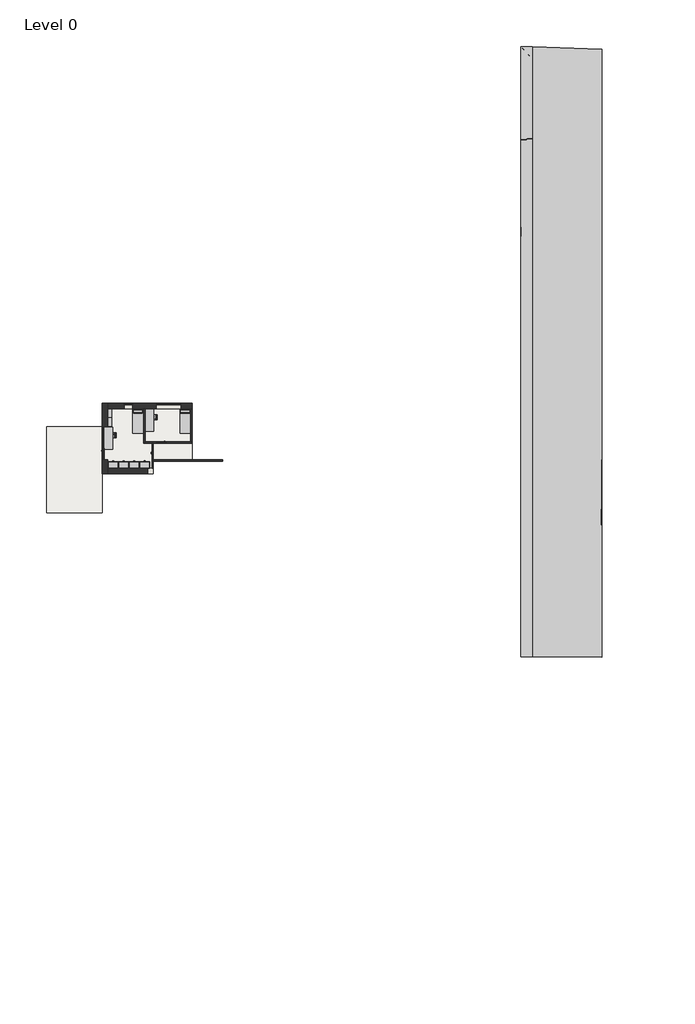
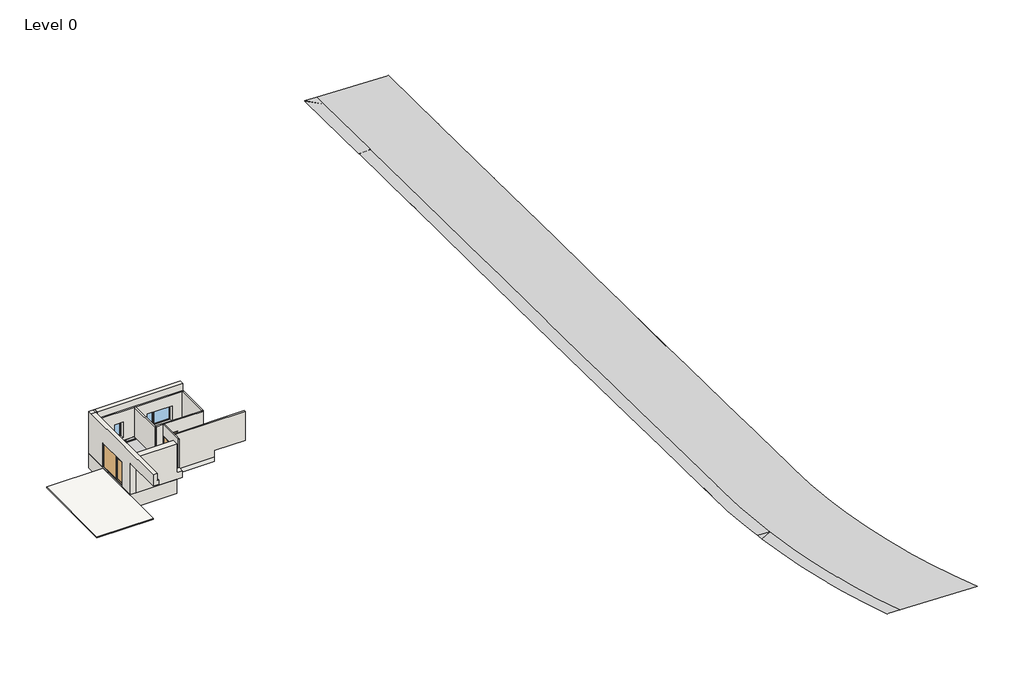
# One storey, incomplete: 12 furniture elements, 11 walls, 3 doors, 2 proxies, 2 slabs, 2 windows.
"""IFC4 building model written with IfcOpenShell, lengths in millimetres."""

from ifc_helpers import new_model, si_unit, frame, origin, place, context, project, spatial, polyline, outline, extrude, faceted_brep, triangles, transform, mapped, element, save
from components import ext_door_window_assembly_glass_2880x2200_mm_8e24472b, int_single_flush1_900x2200_mm_083ae047, int_single_flush1_900x2200_mm_924e3177, furniture_56f83323, furniture_1900_x_700mm_ac9d8d07, furniture_750_x_300_x_700mm_660817c4, bed_standard_2100_x_900mm_af0b1266, tall_cabinet_double_door_900_mm_12ca9f50, single_light_720x1400_mm_50d61ae6, window_assembly_individual_2160x1400_mm_9c06a6f2

model = new_model("IFC4")

# Units and contexts
model_context = context("Model", 3, world=origin())
ifc_project = project(units=[si_unit("LENGTHUNIT", "METRE", prefix="MILLI")], contexts=[model_context])

# Site, building, storey
site = spatial("IfcSite", under=ifc_project)
building = spatial("IfcBuilding", under=site)
storey = spatial("IfcBuildingStorey", under=building, Name="Level 0", Elevation=-600.0)

# Proxies
placement = place(None, origin())
element("IfcBuildingElementProxy", 1, Name="Building Element Proxy", at=placement, inside=storey, context=model_context, shape_type="Tessellation", body=[
    triangles([(43181.6805176, 40515.4990723, -100.0000008), (37203.5361145, 40724.2584229, -100.0000008), (37199.9991211, 40724.3839966, -100.0000008), (37199.9991211, 39671.6947632, -86.6964796), (37199.9991211, 32813.720343, 0.0), (37199.9991211, 32782.3641174, 0.3775577), (37199.9991211, 25025.3120178, 100.0000008), (37199.9991211, 15908.9126587, 198.5837907), (37199.9991211, 15779.7519379, 200.0000015), (37199.9991211, 15651.9027649, 201.4311097), (37199.9991211, 6719.0625504, 300.0000023), (37199.9991211, 6686.3662903, 300.4406549), (37199.9991211, -516.6359433, 400.0000031), (37199.9991211, -544.085794, 400.4496486), (37199.9991211, -6997.0037247, 500.0000038), (37199.9991211, -6998.7687332, 500.0334683), (37199.9991211, -11963.7174225, 600.0000046), (37199.9991211, -18366.1940643, 696.1991472), (37199.9991211, -18619.0902557, 700.0000053), (37199.9991211, -18662.7050354, 700.6330336), (37199.9991211, -19440.043634, 712.0087927), (37243.5825073, -21707.3866333, 745.2285673), (37374.2652283, -23971.3809998, 778.4773373), (37479.7959961, -25066.1630127, 794.5930687), (37513.2939514, -25413.6743591, 799.6886152), (37515.3008057, -25434.4893677, 800.0000061), (37542.2945068, -25714.5094849, 803.4851131), (37591.8565979, -26228.680426, 809.8311647), (37896.0333801, -28475.9502319, 837.7060621), (38286.3490906, -30709.8696899, 865.554217), (38695.5078369, -32616.2951843, 889.4398956), (38762.2223694, -32927.1413269, 893.3128424), (38880.3128357, -33389.9061035, 899.0808043), (38898.2815063, -33460.3157593, 900.0000069), (39159.5167236, -34484.0276917, 913.6351484), (39322.9532593, -35124.4862732, 922.2167467), (39967.7139038, -37298.6582153, 951.3063229), (40695.5531982, -39446.4480469, 979.9999929), (40728.360498, -39447.5921631, 979.9999929), (47214.4576172, -39674.0946167, 979.9999929), (46380.4620117, -37523.5607666, 953.9988184), (45640.8234375, -35338.7778442, 927.5374249), (44996.94646, -33123.880481, 900.6660273), (44988.3376831, -33088.5965881, 900.2372017), (44983.9844604, -33070.7720947, 900.0000069), (44450.0496094, -30883.066095, 871.4600338), (44001.1700317, -28620.5786133, 842.0294174), (43651.1588379, -26340.7038208, 812.4567312), (43569.1266357, -25589.7984924, 802.743952), (43545.8861938, -25377.0649658, 800.0000061), (43537.044873, -25296.1210693, 798.7576401), (43514.4369507, -25089.177887, 795.6694565), (43400.6718018, -24047.7577332, 780.0871954), (43250.1926147, -21746.0842712, 745.6623344), (43200.0003296, -19440.043634, 711.1860958), (43200.0003296, -18717.1447357, 700.380578), (43200.0003296, -18691.7369843, 700.0000053), (43200.0003296, -18682.6538177, 699.8644758), (43200.0003296, -11988.0205902, 600.0000046), (43200.0003296, -11640.558078, 593.4250062), (43200.0003296, -8782.1186005, 539.3352845), (43200.0003296, -6707.3708221, 500.0000038), (43200.0003296, -6656.3843994, 499.2134239), (43200.0003296, -3825.6746246, 452.8434345), (43200.0003296, -699.7119415, 402.3703526), (43200.0003296, -600.9115405, 400.0000031), (43200.0003296, -560.0916484, 401.3769902), (43200.0003296, 5044.39384, 323.9550445), (43200.0003296, 6821.8510437, 300.0000023), (43200.0003296, 6846.8942825, 299.7236565), (43200.0003296, 15755.8208405, 200.0000015), (43200.0003296, 24756.1121704, 101.3148006), (43200.0003296, 24877.6954468, 100.0000008), (43200.0003296, 24981.1495972, 98.6713482), (43200.0003296, 32874.7026672, 3.6300556), (43200.0003296, 33152.5089661, 0.2819413), (43200.0003296, 33176.3330933, 0.0), (43200.0003296, 40385.2140015, -98.1988571), (43200.0003296, 40514.857251, -100.0000008), (37204.4453613, -18619.1739716, 700.0000053), (43198.7445923, -18691.6928009, 700.0000053), (43126.3025024, -11985.4474915, 600.0000046), (43146.4501099, -599.0415602, 400.0000031), (43196.9447021, 33176.0098572, 0.0), (43528.7291016, -25378.7648621, 800.0000061)], [[22, 23, 54], [52, 24, 25], [23, 24, 53], [52, 25, 26], [80, 20, 56], [56, 20, 21], [21, 22, 55], [81, 18, 80], [20, 80, 19], [27, 52, 26], [35, 45, 34], [37, 38, 39], [36, 43, 35], [46, 33, 34], [29, 48, 28], [29, 30, 47], [46, 30, 31], [32, 46, 31], [46, 32, 33], [85, 27, 28], [36, 37, 42], [19, 80, 18], [9, 71, 8], [74, 6, 7], [1, 4, 78], [6, 75, 5], [4, 5, 84], [3, 4, 2], [9, 10, 71], [61, 16, 17], [64, 14, 15], [16, 62, 15], [17, 82, 60], [14, 65, 83], [17, 18, 82], [11, 12, 69], [2, 4, 1], [13, 14, 83], [68, 12, 13], [7, 8, 72], [70, 10, 11], [83, 68, 13], [18, 58, 82], [37, 39, 42], [53, 54, 23], [52, 85, 51], [52, 53, 24], [51, 85, 50], [27, 85, 52], [58, 59, 82], [58, 81, 57], [81, 56, 57], [81, 80, 56], [21, 55, 56], [54, 55, 22], [43, 44, 35], [41, 42, 39], [40, 41, 39], [43, 36, 42], [49, 50, 85], [49, 85, 28], [46, 47, 30], [45, 46, 34], [48, 29, 47], [44, 45, 35], [28, 48, 49], [14, 64, 65], [63, 64, 15], [15, 62, 63], [65, 66, 83], [68, 83, 67], [66, 67, 83], [68, 69, 12], [71, 10, 70], [11, 69, 70], [71, 72, 8], [61, 62, 16], [17, 60, 61], [74, 7, 73], [75, 6, 74], [76, 84, 75], [77, 84, 76], [78, 79, 1], [77, 78, 84], [5, 75, 84], [7, 72, 73], [59, 60, 82], [78, 4, 84], [58, 18, 81]], closed=False),
])
element("IfcBuildingElementProxy", 2, Name="Building Element Proxy", at=placement, inside=storey, context=model_context, shape_type="Tessellation", body=[
    triangles([(36214.3104492, 40758.8051514, -100.0000008), (36199.9996948, 40759.3027954, -100.7970179), (36199.9996948, 40755.7123169, -100.6891393), (36199.9996948, 32724.904834, -0.9608008), (36199.9996948, 32703.2852234, 0.0), (36199.9996948, 25166.5359558, 99.6477875), (36199.9996948, 25152.6530823, 99.8128483), (36199.9996948, 25146.8185547, 99.8778698), (36199.9996948, 25144.3814941, 99.9011514), (36199.9996948, 25142.1909302, 99.9101262), (36199.9996948, 25139.7096863, 99.9103623), (36199.9996948, 24352.2461243, 108.5469173), (36199.9996948, 16593.2615845, 192.1385083), (36199.9996948, 15865.8920288, 200.0000015), (36199.9996948, 6699.2172501, 300.0000023), (36199.9996948, -556.9180049, 400.0000031), (36199.9996948, -7036.0792465, 500.0000038), (36199.9996948, -11959.4700073, 600.0000046), (36199.9996948, -17865.8920441, 688.9390526), (36199.9996948, -18590.1536499, 699.6456665), (36199.9996948, -18596.641626, 699.7049652), (36199.9996948, -18601.1797211, 699.7258215), (36199.9996948, -18606.7293823, 699.7334518), (36199.9996948, -19440.043634, 710.6949921), (36242.6296509, -21701.4195557, 741.8023956), (36370.4613831, -23959.5793945, 775.587252), (36491.581897, -25240.9337402, 796.3089523), (36509.2459351, -25427.7897766, 799.0163452), (36515.5618286, -25494.6182556, 800.0000061), (36531.7631653, -25666.0217468, 802.1085983), (36583.3088562, -26211.3186951, 807.286698), (36880.8720886, -28453.4330017, 831.7234331), (37262.7301758, -30682.7434387, 859.1798967), (37728.3389648, -32896.0757813, 889.617065), (37891.2336731, -33547.4871826, 899.5252539), (37897.1263367, -33571.053186, 899.8178959), (37900.7447205, -33585.5243958, 900.0000069), (37917.315802, -33651.7901184, 900.9052568), (38277.0333801, -35090.2860352, 918.016785), (38908.0390503, -37262.2581116, 947.4351929), (39592.0252075, -39323.2369629, 978.824556), (39615.242395, -39393.1954834, 979.7900494), (39620.4560303, -39408.9061523, 979.9999929), (40695.5531982, -39446.4480469, 979.9999929), (39967.7139038, -37298.6582153, 951.3063229), (39322.9532593, -35124.4862732, 922.2167467), (39159.5167236, -34484.0276917, 913.6351484), (38898.2815063, -33460.3157593, 900.0000069), (38880.3128357, -33389.9061035, 899.0808043), (38762.2223694, -32927.1413269, 893.3128424), (38695.5078369, -32616.2951843, 889.4398956), (38286.3490906, -30709.8696899, 865.554217), (37896.0333801, -28475.9502319, 837.7060621), (37591.8565979, -26228.680426, 809.8311647), (37542.2945068, -25714.5094849, 803.4851131), (37515.3008057, -25434.4893677, 800.0000061), (37513.2939514, -25413.6743591, 799.6886152), (37479.7959961, -25066.1630127, 794.5930687), (37374.2652283, -23971.3809998, 778.4773373), (37243.5825073, -21707.3866333, 745.2285673), (37199.9991211, -19440.043634, 712.0087927), (37199.9991211, -18662.7050354, 700.6330336), (37199.9991211, -18619.0902557, 700.0000053), (37199.9991211, -18366.1940643, 696.1991472), (37199.9991211, -11963.7174225, 600.0000046), (37199.9991211, -6998.7687332, 500.0334683), (37199.9991211, -6997.0037247, 500.0000038), (37199.9991211, -544.085794, 400.4496486), (37199.9991211, -516.6359433, 400.0000031), (37199.9991211, 6686.3662903, 300.4406549), (37199.9991211, 6719.0625504, 300.0000023), (37199.9991211, 15651.9027649, 201.4311097), (37199.9991211, 15779.7519379, 200.0000015), (37199.9991211, 15908.9126587, 198.5837907), (37199.9991211, 25025.3120178, 100.0000008), (37199.9991211, 32782.3641174, 0.3775577), (37199.9991211, 32813.720343, 0.0), (37199.9991211, 39671.6947632, -86.6964796), (37199.9991211, 40724.3839966, -100.0000008), (37087.5036621, -11963.304657, 600.0000046), (37198.0155212, -6997.0990677, 500.0000038), (37172.6821838, -516.257369, 400.0000031), (37173.6821228, 6718.6114151, 300.0000023), (37112.6416626, 15780.1007538, 200.0000015), (37183.8559204, 25025.7073425, 100.0000008), (36210.9199585, -18600.4937164, 700.0000053), (36207.8457275, 25144.618689, 100.0000008), (37176.9540161, 32812.3297302, 0.0), (37495.5368958, -25434.6730774, 800.0000061), (38837.1898865, -33464.2271484, 900.0000069), (36215.9638367, 32712.8916138, 0.0)], [[23, 24, 86], [22, 86, 21], [86, 22, 23], [21, 86, 20], [19, 86, 64], [19, 80, 18], [19, 20, 86], [80, 17, 18], [82, 15, 16], [16, 17, 81], [80, 19, 65], [28, 89, 27], [55, 30, 31], [29, 30, 89], [29, 89, 28], [25, 61, 24], [26, 60, 25], [68, 82, 16], [80, 66, 17], [70, 15, 82], [81, 17, 66], [59, 26, 27], [62, 86, 24], [31, 32, 54], [83, 15, 70], [87, 8, 9], [11, 87, 10], [10, 87, 9], [87, 7, 8], [78, 3, 4], [91, 4, 5], [87, 6, 7], [91, 5, 76], [2, 3, 1], [12, 87, 11], [12, 85, 87], [14, 74, 13], [87, 85, 6], [84, 74, 14], [72, 84, 14], [83, 72, 15], [12, 13, 75], [72, 14, 15], [5, 6, 76], [1, 3, 78], [91, 88, 4], [91, 76, 88], [4, 88, 78], [78, 79, 1], [77, 78, 88], [88, 76, 77], [76, 6, 85], [85, 12, 75], [16, 81, 68], [35, 50, 34], [37, 90, 36], [36, 90, 35], [37, 38, 90], [32, 53, 54], [52, 33, 34], [55, 31, 54], [52, 53, 33], [51, 52, 34], [51, 34, 50], [38, 39, 47], [45, 40, 41], [44, 41, 42], [44, 45, 41], [44, 42, 43], [40, 45, 46], [50, 90, 49], [50, 35, 90], [49, 90, 48], [47, 48, 90], [90, 38, 47], [46, 47, 39], [40, 46, 39], [63, 86, 62], [65, 66, 80], [19, 64, 65], [64, 86, 63], [76, 85, 75], [75, 13, 74], [72, 73, 84], [74, 84, 73], [66, 67, 81], [72, 83, 71], [24, 61, 62], [27, 58, 59], [27, 89, 58], [58, 89, 57], [56, 57, 89], [55, 56, 89], [30, 55, 89], [70, 71, 83], [68, 69, 82], [67, 68, 81], [69, 70, 82], [60, 26, 59], [25, 60, 61], [32, 33, 53]], closed=False),
])

# Doors
ext_door_window_assembly_glass_2880x2200_mm_shape = ext_door_window_assembly_glass_2880x2200_mm_8e24472b(model_context)
element("IfcDoor", 3, ObjectType="Ext. Door Window Assembly - Glass : 2880x2200 mm", at=placement, inside=storey, context=model_context, shape_type="MappedRepresentation", body=[
    mapped(ext_door_window_assembly_glass_2880x2200_mm_shape, transform((240.0, 6480.0, -600.0), x_axis=(0.0, -1.0, 0.0), y_axis=(1.0, 0.0, 0.0), z_axis=(0.0, 0.0, 1.0))),
])
int_single_flush1_900x2200_mm_shape = int_single_flush1_900x2200_mm_083ae047(model_context)
element("IfcDoor", 4, ObjectType="Int. Single-Flush1 : 900x2200 mm", at=placement, inside=storey, context=model_context, shape_type="MappedRepresentation", body=[
    mapped(int_single_flush1_900x2200_mm_shape, transform((4380.0, 5910.0, -600.0), x_axis=(0.0, 1.0, 0.0), y_axis=(-1.0, 0.0, 0.0), z_axis=(0.0, 0.0, 1.0))),
])
int_single_flush1_900x2200_mm_2_shape = int_single_flush1_900x2200_mm_924e3177(model_context)
element("IfcDoor", 5, ObjectType="Int. Single-Flush1 : 900x2200 mm", at=placement, inside=storey, context=model_context, shape_type="MappedRepresentation", body=[
    mapped(int_single_flush1_900x2200_mm_2_shape, transform((5130.0, 6540.0, -600.0), x_axis=(-1.0, 0.0, 0.0), y_axis=(0.0, -1.0, 0.0), z_axis=(0.0, 0.0, 1.0))),
])

# Furniture
furniture_shape = furniture_56f83323(model_context)
element("IfcFurniture", 6, ObjectType="Chair - Allround : Chair - allround", at=placement, inside=storey, context=model_context, shape_type="MappedRepresentation", body=[
    mapped(furniture_shape, transform((905.0, 7180.0, -600.0), x_axis=(0.0, -1.0000000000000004, 0.0), y_axis=(1.0000000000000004, 0.0, 0.0), z_axis=(0.0, 0.0, 1.0))),
])
element("IfcFurniture", 7, ObjectType="Chair - Allround : Chair - allround", at=placement, inside=storey, context=model_context, shape_type="MappedRepresentation", body=[
    mapped(furniture_shape, transform((4460.0, 8740.0, -600.0), x_axis=(0.0, -1.0000000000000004, 0.0), y_axis=(1.0000000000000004, 0.0, 0.0), z_axis=(0.0, 0.0, 1.0))),
])
furniture_1900_x_700mm_shape = furniture_1900_x_700mm_ac9d8d07(model_context)
element("IfcFurniture", 8, ObjectType="Table - Allround : 1900 x 700mm", at=placement, inside=storey, context=model_context, shape_type="MappedRepresentation", body=[
    mapped(furniture_1900_x_700mm_shape, transform((555.0, 6930.0, -600.0), x_axis=(0.0, 1.0, 0.0), y_axis=(-1.0, 0.0, 0.0), z_axis=(0.0, 0.0, 1.0))),
])
element("IfcFurniture", 9, ObjectType="Table - Allround : 1900 x 700mm", at=placement, inside=storey, context=model_context, shape_type="MappedRepresentation", body=[
    mapped(furniture_1900_x_700mm_shape, transform((4110.0, 8490.0, -600.0), x_axis=(0.0, 1.0, 0.0), y_axis=(-1.0, 0.0, 0.0), z_axis=(0.0, 0.0, 1.0))),
])
furniture_750_x_300_x_700mm_shape = furniture_750_x_300_x_700mm_660817c4(model_context)
element("IfcFurniture", 10, ObjectType="Shelving (Floor) - Allround : 750 x 300 x 700mm", at=placement, inside=storey, context=model_context, shape_type="MappedRepresentation", body=[
    mapped(furniture_750_x_300_x_700mm_shape, transform((365.2, 9065.0, -600.0), x_axis=(0.0, 1.0000000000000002, 0.0), y_axis=(-1.0000000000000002, 0.0, 0.0), z_axis=(0.0, 0.0, 1.0))),
])
element("IfcFurniture", 11, ObjectType="Shelving (Floor) - Allround : 750 x 300 x 700mm", at=placement, inside=storey, context=model_context, shape_type="MappedRepresentation", body=[
    mapped(furniture_750_x_300_x_700mm_shape, transform((365.2, 8315.0, -600.0), x_axis=(0.0, 1.0000000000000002, 0.0), y_axis=(-1.0000000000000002, 0.0, 0.0), z_axis=(0.0, 0.0, 1.0))),
])
bed_standard_2100_x_900mm_shape = bed_standard_2100_x_900mm_af0b1266(model_context)
element("IfcFurniture", 12, ObjectType="Bed - Standard : 2100 x 900mm", at=placement, inside=storey, context=model_context, shape_type="MappedRepresentation", body=[
    mapped(bed_standard_2100_x_900mm_shape, transform((2838.5114754, 8435.595082, -600.0), x_axis=(1.0, 0.0, 0.0), y_axis=(0.0, 1.0, 0.0), z_axis=(0.0, 0.0, 1.0))),
])
element("IfcFurniture", 13, ObjectType="Bed - Standard : 2100 x 900mm", at=placement, inside=storey, context=model_context, shape_type="MappedRepresentation", body=[
    mapped(bed_standard_2100_x_900mm_shape, transform((6918.5114754, 8435.595082, -600.0), x_axis=(1.0, 0.0, 0.0), y_axis=(0.0, 1.0, 0.0), z_axis=(0.0, 0.0, 1.0))),
])
tall_cabinet_double_door_900_mm_shape = tall_cabinet_double_door_900_mm_12ca9f50(model_context)
element("IfcFurniture", 14, ObjectType="Tall Cabinet - Double door : 900 mm", at=placement, inside=storey, context=model_context, shape_type="MappedRepresentation", body=[
    mapped(tall_cabinet_double_door_900_mm_shape, transform((1014.7003264, 4320.0, -600.0), x_axis=(-1.0000000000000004, 0.0, 0.0), y_axis=(0.0, -1.0000000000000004, 0.0), z_axis=(0.0, 0.0, 1.0))),
])
element("IfcFurniture", 15, ObjectType="Tall Cabinet - Double door : 900 mm", at=placement, inside=storey, context=model_context, shape_type="MappedRepresentation", body=[
    mapped(tall_cabinet_double_door_900_mm_shape, transform((1914.7003264, 4320.0, -600.0), x_axis=(-1.0000000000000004, 0.0, 0.0), y_axis=(0.0, -1.0000000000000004, 0.0), z_axis=(0.0, 0.0, 1.0))),
])
element("IfcFurniture", 16, ObjectType="Tall Cabinet - Double door : 900 mm", at=placement, inside=storey, context=model_context, shape_type="MappedRepresentation", body=[
    mapped(tall_cabinet_double_door_900_mm_shape, transform((2814.7003264, 4320.0, -600.0), x_axis=(-1.0000000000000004, 0.0, 0.0), y_axis=(0.0, -1.0000000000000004, 0.0), z_axis=(0.0, 0.0, 1.0))),
])
element("IfcFurniture", 17, ObjectType="Tall Cabinet - Double door : 900 mm", at=placement, inside=storey, context=model_context, shape_type="MappedRepresentation", body=[
    mapped(tall_cabinet_double_door_900_mm_shape, transform((3714.7003264, 4320.0, -600.0), x_axis=(-1.0000000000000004, 0.0, 0.0), y_axis=(0.0, -1.0000000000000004, 0.0), z_axis=(0.0, 0.0, 1.0))),
])

# Slabs
element("IfcSlab", 18, ObjectType="Generic - 400mm (Ground)", at=placement, inside=storey, context=model_context, shape_type="SweptSolid", body=[
    extrude(outline(polyline([(7800.0, 9480.0), (7800.0, 4920.0), (4440.0, 4920.0), (4440.0, 4320.0), (480.0, 4320.0), (480.0, 5040.0), (165.0, 5040.0), (165.0, 7920.0), (480.0, 7920.0), (480.0, 9480.0), (7800.0, 9480.0)])), frame((0.0, 0.0, -1000.0), z_axis=(0.0, 0.0, 1.0), x_axis=(1.0, 0.0, 0.0)), (0.0, 0.0, 1.0), 400.0),
])
element("IfcSlab", 19, ObjectType="Generic - Concrete 100mm (Exterior)", at=placement, inside=storey, context=model_context, shape_type="SweptSolid", body=[
    extrude(outline(polyline([(-4800.0, 7920.0), (0.0, 7920.0), (0.0, 480.0), (-4800.0, 480.0), (-4800.0, 7920.0)])), frame((0.0, 0.0, -800.0), z_axis=(0.0, 0.0, 1.0), x_axis=(1.0, 0.0, 0.0)), (0.0, 0.0, 1.0), 100.0),
])

# Walls
element("IfcWall", 20, ObjectType="Generic - 120mm (Interior)", at=placement, inside=storey, context=model_context, shape_type="Brep", body=[
    faceted_brep([(3600.0, 9480.0, -600.0), (3600.0, 6480.0, -600.0), (3600.0, 6480.0, 2600.0), (3600.0, 9480.0, 2600.0), (3720.0, 9480.0, -600.0), (3720.0, 9480.0, 2600.0), (3720.0, 6600.0, 2600.0), (3720.0, 6480.0, 2600.0), (3720.0, 6480.0, -600.0), (3720.0, 6600.0, -600.0)], [[[0, 1, 2, 3]], [[4, 5, 6, 7, 8, 9]], [[1, 0, 4, 9, 8]], [[2, 1, 8, 7]], [[0, 3, 5, 4]], [[3, 2, 7, 6, 5]]]),
])
element("IfcWall", 21, ObjectType="Generic - 120mm (Interior)", at=placement, inside=storey, context=model_context, shape_type="Brep", body=[
    faceted_brep([(3720.0, 6480.0, 2600.0), (3720.0, 6480.0, -600.0), (4320.0, 6480.0, -600.0), (4440.0, 6480.0, -600.0), (4680.0, 6480.0, -600.0), (4680.0, 6480.0, 1600.0), (5580.0, 6480.0, 1600.0), (5580.0, 6480.0, -600.0), (7800.0, 6480.0, -600.0), (7800.0, 6480.0, 0.0), (7740.0, 6480.0, 0.0), (7740.0, 6480.0, 2600.0), (4440.0, 6480.0, 2600.0), (4320.0, 6480.0, 2600.0), (3720.0, 6600.0, -600.0), (3720.0, 6600.0, 2600.0), (7680.0, 6600.0, 2600.0), (7740.0, 6600.0, 2600.0), (7740.0, 6600.0, 0.0), (7800.0, 6600.0, 0.0), (7800.0, 6600.0, -600.0), (7680.0, 6600.0, -600.0), (5580.0, 6600.0, -600.0), (5580.0, 6600.0, 1600.0), (4680.0, 6600.0, 1600.0), (4680.0, 6600.0, -600.0)], [[[0, 1, 2, 3, 4, 5, 6, 7, 8, 9, 10, 11, 12, 13]], [[14, 15, 16, 17, 18, 19, 20, 21, 22, 23, 24, 25]], [[1, 14, 25, 4, 3, 2]], [[20, 8, 7, 22, 21]], [[1, 0, 15, 14]], [[24, 5, 4, 25]], [[5, 24, 23, 6]], [[6, 23, 22, 7]], [[0, 13, 12, 11, 17, 16, 15]], [[17, 11, 10, 18]], [[18, 10, 9, 19]], [[9, 8, 20, 19]]]),
])
element("IfcWall", 22, ObjectType="Generic - 120mm (Interior)", at=placement, inside=storey, context=model_context, shape_type="Brep", body=[
    faceted_brep([(4440.0, 6480.0, -600.0), (4440.0, 6480.0, 2600.0), (4440.0, 5040.0, 2600.0), (4440.0, 4920.0, 2600.0), (4440.0, 4320.0, 2600.0), (4440.0, 4320.0, 0.0), (4440.0, 4320.0, -600.0), (4440.0, 4920.0, -600.0), (4440.0, 5040.0, -600.0), (4440.0, 5460.0, -600.0), (4440.0, 5460.0, 1600.0), (4440.0, 6360.0, 1600.0), (4440.0, 6360.0, -600.0), (4320.0, 6480.0, 2600.0), (4320.0, 6480.0, -600.0), (4320.0, 6360.0, -600.0), (4320.0, 6360.0, 1600.0), (4320.0, 5460.0, 1600.0), (4320.0, 5460.0, -600.0), (4320.0, 4320.0, -600.0), (4320.0, 4320.0, 2600.0)], [[[0, 1, 2, 3, 4, 5, 6, 7, 8, 9, 10, 11, 12]], [[13, 14, 15, 16, 17, 18, 19, 20]], [[14, 0, 12, 15]], [[6, 19, 18, 9, 8, 7]], [[1, 0, 14, 13]], [[6, 5, 4, 20, 19]], [[11, 16, 15, 12]], [[16, 11, 10, 17]], [[17, 10, 9, 18]], [[4, 3, 2, 1, 13, 20]]]),
])
element("IfcWall", 23, ObjectType="Generic - 120mm (Interior)", at=placement, inside=storey, context=model_context, shape_type="Brep", body=[
    faceted_brep([(7800.0, 6600.0, 2600.0), (7800.0, 6600.0, 0.0), (7800.0, 6600.0, -600.0), (7800.0, 9480.0, -600.0), (7800.0, 9480.0, 2600.0), (7800.0, 8640.0, 2600.0), (7800.0, 8520.0, 2600.0), (7680.0, 6600.0, -600.0), (7680.0, 6600.0, 2600.0), (7680.0, 9480.0, 2600.0), (7680.0, 9480.0, -600.0), (7740.0, 6600.0, 2600.0)], [[[0, 1, 2, 3, 4, 5, 6]], [[7, 8, 9, 10]], [[3, 2, 7, 10]], [[4, 3, 10, 9]], [[0, 6, 5, 4, 9, 8, 11]], [[0, 11, 8, 7, 2, 1]]]),
])
element("IfcWall", 24, ObjectType="Generic - 120mm (Interior)", at=placement, inside=storey, context=model_context, shape_type="SweptSolid", body=[
    extrude(outline(polyline([(-600.0, 4440.0), (-600.0, 7800.0), (0.0, 7800.0), (0.0, 10440.0), (2600.0, 10440.0), (2600.0, 4440.0), (-600.0, 4440.0)])), frame((0.0, 4920.0, 0.0), z_axis=(0.0, 1.0, 0.0), x_axis=(0.0, 0.0, 1.0)), (0.0, 0.0, 1.0), 120.0),
])
element("IfcWall", 25, ObjectType="Generic - 480mm (Exterior)", at=placement, inside=storey, context=model_context, shape_type="Brep", body=[
    faceted_brep([(480.0, 9960.0, -600.0), (480.0, 9960.0, 3200.0), (480.0, 9600.0, 3200.0), (480.0, 9600.0, 2600.0), (480.0, 9480.0, 2600.0), (480.0, 4320.0, 2600.0), (480.0, 3840.0, 2600.0), (480.0, 480.0, 2600.0), (480.0, 480.0, 2200.0), (480.0, 3840.0, 2200.0), (480.0, 3840.0, -600.0), (480.0, 4320.0, -600.0), (480.0, 5040.0, -600.0), (480.0, 5040.0, 1600.0), (480.0, 7920.0, 1600.0), (480.0, 7920.0, -600.0), (480.0, 9480.0, -600.0), (0.0, 9960.0, 3200.0), (0.0, 9960.0, -600.0), (0.0, 7920.0, -600.0), (0.0, 7920.0, 1600.0), (0.0, 5040.0, 1600.0), (0.0, 5040.0, -600.0), (0.0, 3840.0, -600.0), (0.0, 3840.0, 2200.0), (0.0, 480.0, 2200.0), (0.0, 480.0, 3200.0), (0.0, 9600.0, 3200.0), (360.0, 9960.0, 3200.0), (360.0, 480.0, 2600.0), (360.0, 480.0, 3200.0), (360.0, 9600.0, 3200.0), (360.0, 9600.0, 2600.0)], [[[0, 1, 2, 3, 4, 5, 6, 7, 8, 9, 10, 11, 12, 13, 14, 15, 16]], [[17, 18, 19, 20, 21, 22, 23, 24, 25, 26, 27]], [[1, 0, 18, 17, 28]], [[21, 13, 12, 22]], [[13, 21, 20, 14]], [[14, 20, 19, 15]], [[18, 0, 16, 15, 19]], [[10, 23, 22, 12, 11]], [[9, 8, 25, 24]], [[10, 9, 24, 23]], [[8, 7, 29, 30, 26, 25]], [[3, 2, 31, 32]], [[27, 26, 30, 31]], [[31, 30, 29, 32]], [[2, 1, 28, 31]], [[17, 27, 31, 28]], [[3, 32, 29, 7, 6, 5, 4]]]),
])
element("IfcWall", 26, ObjectType="Generic - 480mm (Exterior)", at=placement, inside=storey, context=model_context, shape_type="Brep", body=[
    faceted_brep([(480.0, 9480.0, -600.0), (3600.0, 9480.0, -600.0), (3720.0, 9480.0, -600.0), (7800.0, 9480.0, -600.0), (7800.0, 9480.0, 0.0), (7800.0, 9480.0, 2600.0), (3720.0, 9480.0, 2600.0), (3600.0, 9480.0, 2600.0), (480.0, 9480.0, 2600.0), (6840.0, 9480.0, 1600.0), (6840.0, 9480.0, 200.0), (4680.0, 9480.0, 200.0), (4680.0, 9480.0, 1600.0), (1920.0, 9480.0, 200.0), (1920.0, 9480.0, 1600.0), (2640.0, 9480.0, 1600.0), (2640.0, 9480.0, 200.0), (7800.0, 9960.0, -600.0), (480.0, 9960.0, -600.0), (480.0, 9960.0, 3200.0), (7800.0, 9960.0, 3200.0), (7800.0, 9960.0, 0.0), (6840.0, 9960.0, 200.0), (6840.0, 9960.0, 1600.0), (4680.0, 9960.0, 1600.0), (4680.0, 9960.0, 200.0), (1920.0, 9960.0, 1600.0), (1920.0, 9960.0, 200.0), (2640.0, 9960.0, 200.0), (2640.0, 9960.0, 1600.0), (480.0, 9600.0, 2600.0), (480.0, 9600.0, 3200.0), (7800.0, 9600.0, 3200.0), (7800.0, 9600.0, 2600.0)], [[[0, 1, 2, 3, 4, 5, 6, 7, 8], [9, 10, 11, 12], [13, 14, 15, 16]], [[17, 18, 19, 20, 21], [22, 23, 24, 25], [26, 27, 28, 29]], [[3, 2, 1, 0, 18, 17]], [[0, 8, 30, 31, 19, 18]], [[22, 10, 9, 23]], [[24, 12, 11, 25]], [[10, 22, 25, 11]], [[13, 27, 26, 14]], [[28, 16, 15, 29]], [[27, 13, 16, 28]], [[12, 24, 23, 9]], [[29, 15, 14, 26]], [[20, 19, 31, 32]], [[32, 31, 30, 33]], [[30, 8, 7, 6, 5, 33]], [[3, 17, 21, 20, 32, 33, 5, 4]]]),
])
element("IfcWall", 27, ObjectType="Generic - 480mm (Exterior)", at=placement, inside=storey, context=model_context, shape_type="Brep", body=[
    faceted_brep([(4440.0, 4320.0, -600.0), (4320.0, 4320.0, -600.0), (480.0, 4320.0, -600.0), (480.0, 4320.0, 2600.0), (3960.0, 4320.0, 2600.0), (3960.0, 4320.0, 0.0), (4440.0, 4320.0, 0.0), (4440.0, 3840.0, -600.0), (4440.0, 3840.0, 0.0), (3960.0, 3840.0, 0.0), (3960.0, 3840.0, 2200.0), (3960.0, 3840.0, 2600.0), (480.0, 3840.0, 2600.0), (480.0, 3840.0, 2200.0), (480.0, 3840.0, -600.0)], [[[0, 1, 2, 3, 4, 5, 6]], [[7, 8, 9, 10, 11, 12, 13, 14]], [[2, 1, 0, 7, 14]], [[2, 14, 13, 12, 3]], [[4, 3, 12, 11]], [[0, 6, 8, 7]], [[5, 4, 11, 10, 9]], [[5, 9, 8, 6]]]),
])
element("IfcWall", 28, ObjectType="Generic - 480mm (Foundation)", at=placement, inside=storey, context=model_context, shape_type="Brep", body=[
    faceted_brep([(3960.0, 4320.0, -1900.0), (480.0, 4320.0, -1900.0), (0.0, 4320.0, -1900.0), (0.0, 4320.0, -600.0), (480.0, 4320.0, -600.0), (3960.0, 4320.0, -600.0), (3960.0, 4320.0, -1300.0), (3960.0, 3840.0, -1900.0), (3960.0, 3840.0, -600.0), (0.0, 3840.0, -600.0), (0.0, 3840.0, -1900.0)], [[[0, 1, 2, 3, 4, 5, 6]], [[7, 8, 9, 10]], [[2, 1, 0, 7, 10]], [[5, 4, 3, 9, 8]], [[0, 6, 5, 8, 7]], [[3, 2, 10, 9]]]),
])
element("IfcWall", 29, ObjectType="Generic - 480mm (Foundation)", at=placement, inside=storey, context=model_context, shape_type="Brep", body=[
    faceted_brep([(480.0, 4320.0, -1900.0), (480.0, 9480.0, -1900.0), (480.0, 9960.0, -1900.0), (480.0, 9960.0, -600.0), (480.0, 9480.0, -600.0), (480.0, 7920.0, -600.0), (480.0, 7920.0, -1000.0), (480.0, 5040.0, -1000.0), (480.0, 5040.0, -600.0), (480.0, 4320.0, -600.0), (480.0, 4320.0, -1000.0), (0.0, 9960.0, -1900.0), (0.0, 4320.0, -1900.0), (0.0, 4320.0, -600.0), (0.0, 9960.0, -600.0), (165.0, 5040.0, -600.0), (165.0, 7920.0, -600.0), (165.0, 5040.0, -1000.0), (165.0, 7920.0, -1000.0)], [[[0, 1, 2, 3, 4, 5, 6, 7, 8, 9, 10]], [[11, 12, 13, 14]], [[2, 1, 0, 12, 11]], [[14, 13, 9, 8, 15, 16, 5, 4, 3]], [[9, 13, 12, 0, 10]], [[3, 2, 11, 14]], [[17, 7, 6, 18]], [[7, 17, 15, 8]], [[17, 18, 16, 15]], [[18, 6, 5, 16]]]),
])
element("IfcWall", 30, ObjectType="Generic - 480mm (Foundation)", at=placement, inside=storey, context=model_context, shape_type="Brep", body=[
    faceted_brep([(480.0, 9480.0, -1900.0), (7800.0, 9480.0, -1900.0), (7800.0, 9480.0, -1300.0), (7800.0, 9480.0, -600.0), (480.0, 9480.0, -600.0), (480.0, 9960.0, -1900.0), (480.0, 9960.0, -600.0), (7800.0, 9960.0, -600.0), (7800.0, 9960.0, -1300.0), (7800.0, 9960.0, -1900.0)], [[[0, 1, 2, 3, 4]], [[5, 6, 7, 8, 9]], [[1, 0, 5, 9]], [[3, 2, 1, 9, 8, 7]], [[4, 3, 7, 6]], [[0, 4, 6, 5]]]),
])

# Windows
single_light_720x1400_mm_shape = single_light_720x1400_mm_50d61ae6(model_context)
element("IfcWindow", 31, ObjectType="Single-Light : 720x1400 mm", at=placement, inside=storey, context=model_context, shape_type="MappedRepresentation", body=[
    mapped(single_light_720x1400_mm_shape, transform((2280.0, 9720.0, -600.0), x_axis=(1.0, 0.0, 0.0), y_axis=(0.0, 1.0, 0.0), z_axis=(0.0, 0.0, 1.0))),
])
window_assembly_individual_2160x1400_mm_shape = window_assembly_individual_2160x1400_mm_9c06a6f2(model_context)
element("IfcWindow", 32, ObjectType="Window Assembly Individual : 2160x1400 mm", at=placement, inside=storey, context=model_context, shape_type="MappedRepresentation", body=[
    mapped(window_assembly_individual_2160x1400_mm_shape, transform((5760.0, 9720.0, -600.0), x_axis=(-1.0, 0.0, 0.0), y_axis=(0.0, -1.0, 0.0), z_axis=(0.0, 0.0, 1.0))),
])

save(model, "model.ifc")
